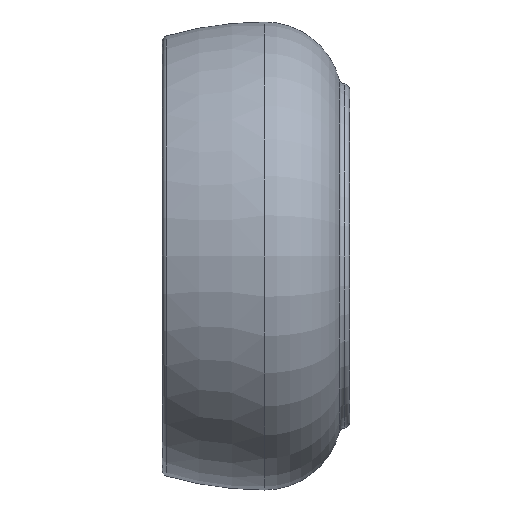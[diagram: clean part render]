
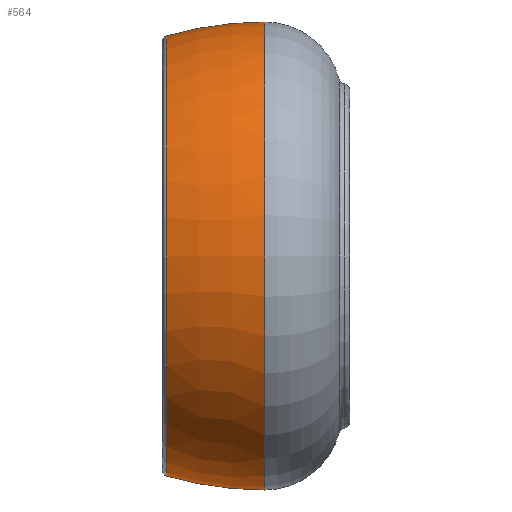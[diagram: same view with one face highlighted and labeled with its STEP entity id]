
A CAD part, left-side view. The second image highlights one B-rep face of the part: STEP entity #564.
In plain terms, the highlighted toroidal (fillet/blend) face has major radius 105.4 mm and minor radius 316.2 mm.
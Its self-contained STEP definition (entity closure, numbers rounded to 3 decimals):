
#76 = VERTEX_POINT ( 'NONE', #173 ) ;
#159 = CARTESIAN_POINT ( 'NONE',  ( -105.4, 161.32, -0.001 ) ) ;
#173 = CARTESIAN_POINT ( 'NONE',  ( -105.4, 161.32, -198.23 ) ) ;
#473 = DIRECTION ( 'NONE',  ( 1., 0., 0. ) ) ;
#564 = ADVANCED_FACE ( 'NONE', ( #5448 ), #2427, .T. ) ;
#567 = EDGE_LOOP ( 'NONE', ( #2886, #7700, #1419, #3350 ) ) ;
#764 = DIRECTION ( 'NONE',  ( 0., 0., -1. ) ) ;
#841 = CARTESIAN_POINT ( 'NONE',  ( -105.4, 73.046, -0.001 ) ) ;
#1232 = CARTESIAN_POINT ( 'NONE',  ( -105.4, 73.046, -0.001 ) ) ;
#1378 = CARTESIAN_POINT ( 'NONE',  ( -105.4, 161.32, 198.227 ) ) ;
#1419 = ORIENTED_EDGE ( 'NONE', *, *, #7598, .F. ) ;
#1452 = DIRECTION ( 'NONE',  ( 0., 0., -1. ) ) ;
#1822 = CIRCLE ( 'NONE', #7547, 316.2 ) ;
#2021 = AXIS2_PLACEMENT_3D ( 'NONE', #1232, #4830, #5828 ) ;
#2427 = TOROIDAL_SURFACE ( 'NONE', #2021, -105.4, 316.2 ) ;
#2652 = DIRECTION ( 'NONE',  ( -1., 0., 0. ) ) ;
#2696 = EDGE_CURVE ( 'NONE', #5059, #76, #7387, .T. ) ;
#2886 = ORIENTED_EDGE ( 'NONE', *, *, #6948, .T. ) ;
#3230 = VERTEX_POINT ( 'NONE', #3877 ) ;
#3350 = ORIENTED_EDGE ( 'NONE', *, *, #3981, .F. ) ;
#3858 = CIRCLE ( 'NONE', #5428, 316.2 ) ;
#3877 = CARTESIAN_POINT ( 'NONE',  ( -105.4, 73.046, -210.801 ) ) ;
#3981 = EDGE_CURVE ( 'NONE', #5848, #3230, #5747, .T. ) ;
#4066 = CARTESIAN_POINT ( 'NONE',  ( -105.4, 73.046, 105.399 ) ) ;
#4366 = DIRECTION ( 'NONE',  ( 0., -1., 0. ) ) ;
#4668 = AXIS2_PLACEMENT_3D ( 'NONE', #159, #4366, #764 ) ;
#4674 = DIRECTION ( 'NONE',  ( 0., 0., -1. ) ) ;
#4830 = DIRECTION ( 'NONE',  ( 0., -1., 0. ) ) ;
#5047 = DIRECTION ( 'NONE',  ( 0., -1., 0. ) ) ;
#5059 = VERTEX_POINT ( 'NONE', #1378 ) ;
#5428 = AXIS2_PLACEMENT_3D ( 'NONE', #4066, #473, #4674 ) ;
#5448 = FACE_OUTER_BOUND ( 'NONE', #567, .T. ) ;
#5747 = CIRCLE ( 'NONE', #7342, 210.8 ) ;
#5828 = DIRECTION ( 'NONE',  ( 0., 0., -1. ) ) ;
#5848 = VERTEX_POINT ( 'NONE', #7645 ) ;
#6259 = CARTESIAN_POINT ( 'NONE',  ( -105.4, 73.046, -105.401 ) ) ;
#6857 = DIRECTION ( 'NONE',  ( 0., 0., 1. ) ) ;
#6948 = EDGE_CURVE ( 'NONE', #5848, #5059, #1822, .T. ) ;
#7342 = AXIS2_PLACEMENT_3D ( 'NONE', #841, #5047, #1452 ) ;
#7387 = CIRCLE ( 'NONE', #4668, 198.228 ) ;
#7547 = AXIS2_PLACEMENT_3D ( 'NONE', #6259, #2652, #6857 ) ;
#7598 = EDGE_CURVE ( 'NONE', #3230, #76, #3858, .T. ) ;
#7645 = CARTESIAN_POINT ( 'NONE',  ( -105.4, 73.046, 210.799 ) ) ;
#7700 = ORIENTED_EDGE ( 'NONE', *, *, #2696, .T. ) ;
